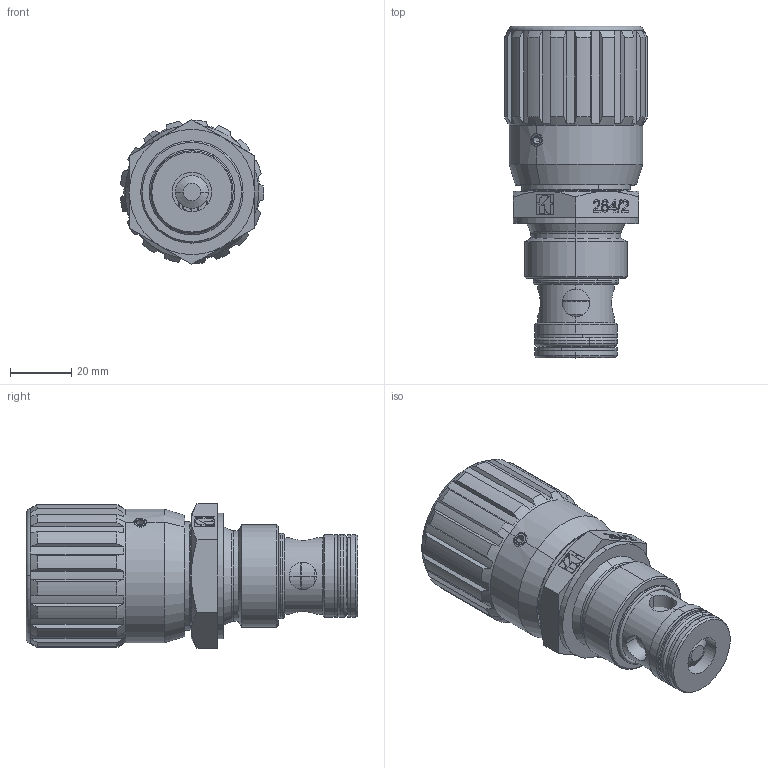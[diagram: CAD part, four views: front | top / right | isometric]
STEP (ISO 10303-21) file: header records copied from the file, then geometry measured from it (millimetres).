
FILE_DESCRIPTION (( 'STEP AP214' ), '1' );
FILE_NAME ('Assieme 264-2-34.STEP', '2014-11-06T21:09:18', ( '' ), ( '' ), 'SwSTEP 2.0', 'SolidWorks 2014', '' );
FILE_SCHEMA (( 'AUTOMOTIVE_DESIGN' ));
Length unit declared in the file: millimetre
Products named in the file (1): Assieme 264-2-34
Bounding box: 46.93 x 108.6 x 47.34 mm (x, y, z)
Surface area: 26216.3 mm2 (no closed solid volume)
Topology: 0 solids, 16 shells, 438 faces, 1360 edges, 899 vertices
Faces by surface type: plane 215, cylinder 102, cone 59, bspline 44, torus 18
Entity records: 23306 total; most frequent: CARTESIAN_POINT 6958, ORIENTED_EDGE 2306, DIRECTION 2222, EDGE_CURVE 1360, VERTEX_POINT 899, LINE 804, VECTOR 804, AXIS2_PLACEMENT_3D 709
